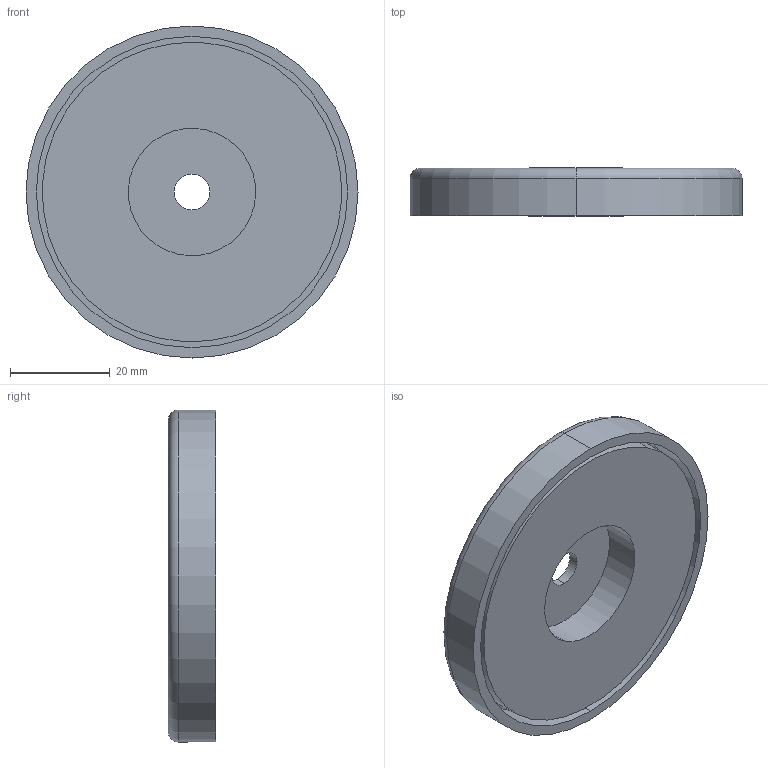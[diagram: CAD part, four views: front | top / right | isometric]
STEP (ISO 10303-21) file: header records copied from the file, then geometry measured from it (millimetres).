
FILE_DESCRIPTION (( 'STEP AP203' ), '1' );
FILE_NAME ('MX.STEP', '2018-07-31T14:51:39', ( '' ), ( '' ), 'SwSTEP 2.0', 'SolidWorks 2015', '' );
FILE_SCHEMA (( 'CONFIG_CONTROL_DESIGN' ));
Length unit declared in the file: inch
Products named in the file (1): MX
Bounding box: 66.62 x 9.53 x 66.62 mm (x, y, z)
Volume: 26850.9 mm3; surface area: 16794.1 mm2
Topology: 2 solids, 2 shells, 17 faces, 34 edges, 22 vertices
Faces by surface type: cylinder 10, plane 5, torus 2
Entity records: 541 total; most frequent: DIRECTION 94, CARTESIAN_POINT 74, ORIENTED_EDGE 68, AXIS2_PLACEMENT_3D 42, EDGE_CURVE 34, CIRCLE 24, EDGE_LOOP 22, VERTEX_POINT 22
